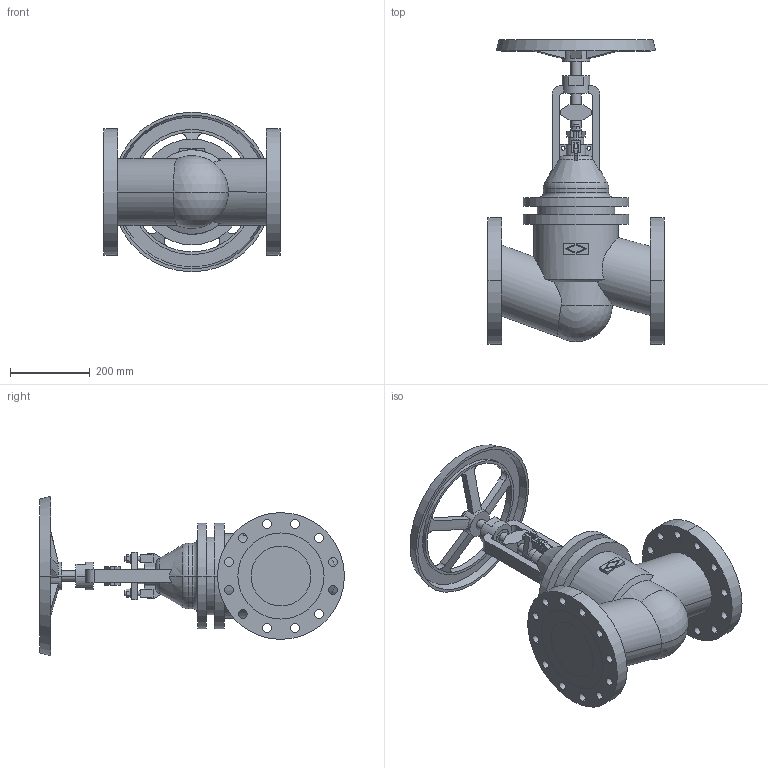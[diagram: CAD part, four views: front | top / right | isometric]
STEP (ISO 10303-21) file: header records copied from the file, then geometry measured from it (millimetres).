
FILE_DESCRIPTION(('OneSpaceDesigner STEP Export'),'2;1');
FILE_NAME('c000004219.stp','2010-04-30T 9:45:51',(''),(''),'OneSpace Designer STEP processor for AP214 (Solid Model)','OneSpace Modeling 15.50B 03-Nov-2007 (C) CoCreate Software GmbH','');
FILE_SCHEMA(('AUTOMOTIVE_DESIGN { 1 0 10303 214 1 1 1 1 }'));
Length unit declared in the file: millimetre
Products named in the file (1): 1
Bounding box: 445 x 763.9 x 400 mm (x, y, z)
Volume: 24682868.1 mm3; surface area: 1200982.6 mm2
Topology: 1 solids, 1 shells, 322 faces, 854 edges, 557 vertices
Faces by surface type: plane 149, cylinder 141, cone 22, torus 8, sphere 2
Entity records: 12460 total; most frequent: CARTESIAN_POINT 2369, ORIENTED_EDGE 1704, DIRECTION 1359, EDGE_CURVE 852, VERTEX_POINT 557, AXIS2_PLACEMENT_3D 462, VECTOR 435, LINE 435
